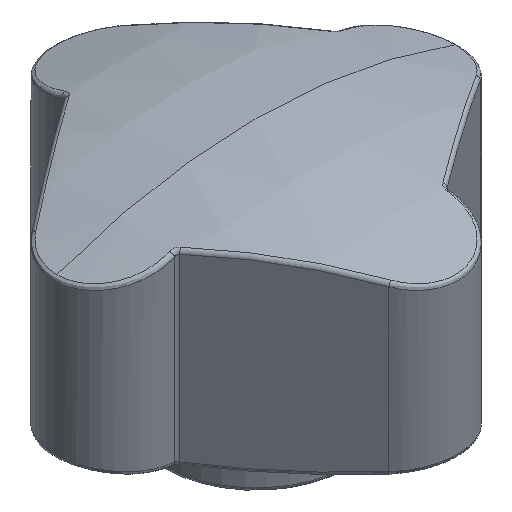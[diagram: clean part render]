
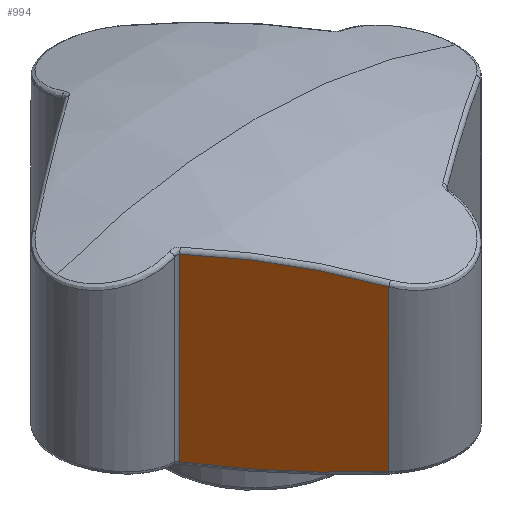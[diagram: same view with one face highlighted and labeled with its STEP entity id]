
A CAD part, isometric view. The second image highlights one B-rep face of the part: STEP entity #994.
In plain terms, the highlighted planar face has unit normal (-0.809, -0.588, 0).
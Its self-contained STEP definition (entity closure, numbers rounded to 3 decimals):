
#882 = EDGE_CURVE ( 'NONE', #951, #948, #1835, .T. ) ;
#948 = VERTEX_POINT ( 'NONE', #1965 ) ;
#951 = VERTEX_POINT ( 'NONE', #1966 ) ;
#976 = EDGE_LOOP ( 'NONE', ( #977, #992, #1022, #1021 ) ) ;
#977 = ORIENTED_EDGE ( 'NONE', *, *, #988, .T. ) ;
#988 = EDGE_CURVE ( 'NONE', #999, #993, #2052, .T. ) ;
#992 = ORIENTED_EDGE ( 'NONE', *, *, #1004, .T. ) ;
#993 = VERTEX_POINT ( 'NONE', #2126 ) ;
#994 = ADVANCED_FACE ( 'NONE', ( #2125 ), #2101, .T. ) ;
#999 = VERTEX_POINT ( 'NONE', #2121 ) ;
#1004 = EDGE_CURVE ( 'NONE', #993, #948, #2119, .T. ) ;
#1007 = EDGE_CURVE ( 'NONE', #951, #999, #2122, .T. ) ;
#1021 = ORIENTED_EDGE ( 'NONE', *, *, #1007, .T. ) ;
#1022 = ORIENTED_EDGE ( 'NONE', *, *, #882, .F. ) ;
#1589 = DIRECTION ( 'NONE',  ( 0.588, -0.809, 0. ) ) ;
#1802 = DIRECTION ( 'NONE',  ( 0., 0., -1. ) ) ;
#1834 = CARTESIAN_POINT ( 'NONE',  ( -5.663, -22.114, 35. ) ) ;
#1835 = LINE ( 'NONE', #1834, #1886 ) ;
#1886 = VECTOR ( 'NONE', #1802, 1000. ) ;
#1965 = CARTESIAN_POINT ( 'NONE',  ( -5.663, -22.114, 8.001 ) ) ;
#1966 = CARTESIAN_POINT ( 'NONE',  ( -5.663, -22.114, 27.832 ) ) ;
#2052 = LINE ( 'NONE', #2135, #2131 ) ;
#2101 = PLANE ( 'NONE',  #2136 ) ;
#2118 = DIRECTION ( 'NONE',  ( 0.588, -0.809, 0. ) ) ;
#2119 = CIRCLE ( 'NONE', #2146, 98.023 ) ;
#2121 = CARTESIAN_POINT ( 'NONE',  ( -16.548, -7.133, 29.285 ) ) ;
#2122 = CIRCLE ( 'NONE', #2150, 68.4 ) ;
#2125 = FACE_OUTER_BOUND ( 'NONE', #976, .T. ) ;
#2126 = CARTESIAN_POINT ( 'NONE',  ( -16.548, -7.133, 6.993 ) ) ;
#2127 = DIRECTION ( 'NONE',  ( -0.809, -0.588, 0. ) ) ;
#2128 = CARTESIAN_POINT ( 'NONE',  ( -5.663, -22.114, 35. ) ) ;
#2130 = DIRECTION ( 'NONE',  ( 0., 0., -1. ) ) ;
#2131 = VECTOR ( 'NONE', #2130, 1000. ) ;
#2135 = CARTESIAN_POINT ( 'NONE',  ( -16.548, -7.133, 6.586 ) ) ;
#2136 = AXIS2_PLACEMENT_3D ( 'NONE', #2128, #2127, #2118 ) ;
#2138 = DIRECTION ( 'NONE',  ( -0.809, -0.588, 0. ) ) ;
#2139 = CARTESIAN_POINT ( 'NONE',  ( -14.223, -10.333, -39. ) ) ;
#2143 = DIRECTION ( 'NONE',  ( 0.588, -0.809, 0. ) ) ;
#2144 = DIRECTION ( 'NONE',  ( -0.809, -0.588, 0. ) ) ;
#2145 = CARTESIAN_POINT ( 'NONE',  ( -14.223, -10.333, 104.937 ) ) ;
#2146 = AXIS2_PLACEMENT_3D ( 'NONE', #2145, #2144, #2143 ) ;
#2150 = AXIS2_PLACEMENT_3D ( 'NONE', #2139, #2138, #1589 ) ;
